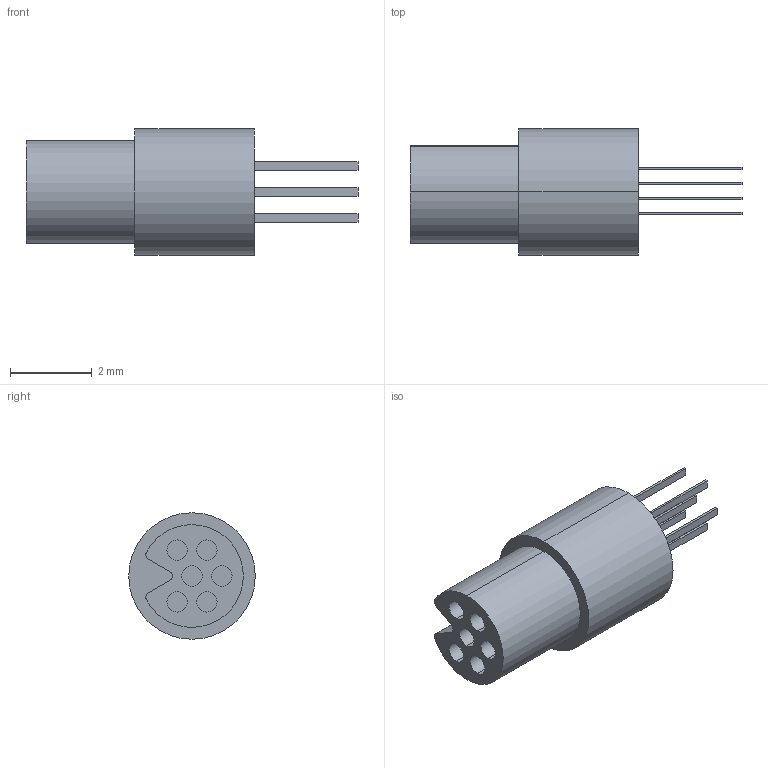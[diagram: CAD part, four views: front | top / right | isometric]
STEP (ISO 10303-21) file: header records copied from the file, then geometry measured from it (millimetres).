
FILE_DESCRIPTION (( 'STEP AP214' ), '1' );
FILE_NAME ('A79108-001 REV E.STEP', '2015-11-06T13:53:05', ( '' ), ( '' ), 'SwSTEP 2.0', 'SolidWorks 2015', '' );
FILE_SCHEMA (( 'AUTOMOTIVE_DESIGN' ));
Length unit declared in the file: inch
Products named in the file (1): A79108-001
Bounding box: 8.13 x 3.1 x 3.1 mm (x, y, z)
Volume: 29.1 mm3; surface area: 115.9 mm2
Topology: 1 solids, 1 shells, 79 faces, 174 edges, 116 vertices
Faces by surface type: plane 47, cylinder 32
Entity records: 2232 total; most frequent: DIRECTION 398, CARTESIAN_POINT 370, ORIENTED_EDGE 348, EDGE_CURVE 174, AXIS2_PLACEMENT_3D 144, VERTEX_POINT 116, LINE 110, VECTOR 110
